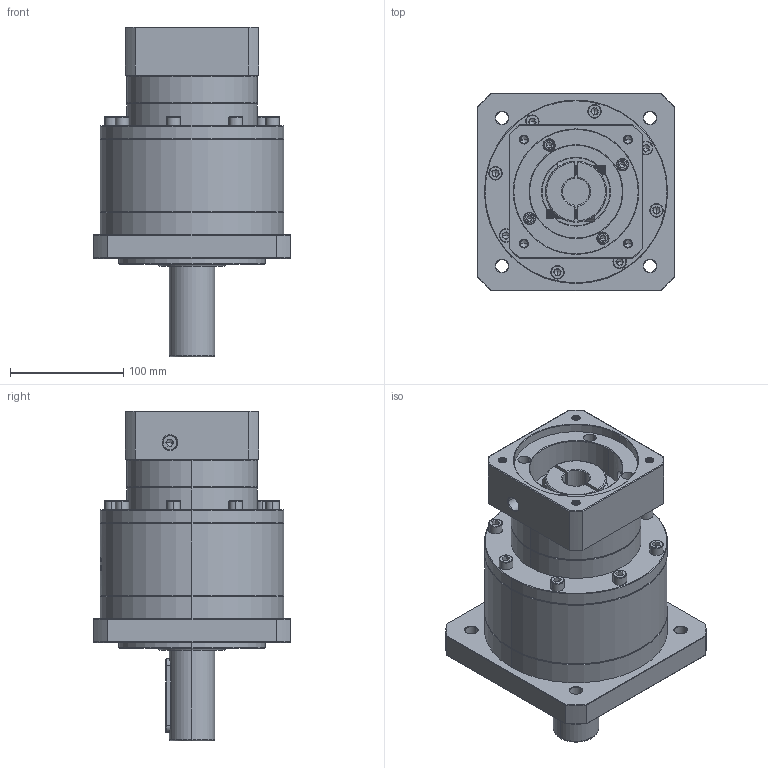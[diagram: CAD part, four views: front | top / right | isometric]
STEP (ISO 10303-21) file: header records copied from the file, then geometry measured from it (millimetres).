
FILE_DESCRIPTION (( 'STEP AP214' ), '1' );
FILE_NAME ('ZF160-D40-L2-24-110-130-M8.step', '2023-03-22T03:56:32', ( '' ), ( '' ), 'SwSTEP 2.0', 'SolidWorks 2016', '' );
FILE_SCHEMA (( 'AUTOMOTIVE_DESIGN' ));
Length unit declared in the file: millimetre
Products named in the file (1): ZF160-D40-L2-24-110-130-M8
Bounding box: 175 x 175 x 291.7 mm (x, y, z)
Volume: 3572276.6 mm3; surface area: 265805.1 mm2
Topology: 6 solids, 6 shells, 1857 faces, 4687 edges, 2956 vertices
Faces by surface type: plane 746, cylinder 484, cone 357, bspline 212, torus 58
Entity records: 99202 total; most frequent: CARTESIAN_POINT 36460, ORIENTED_EDGE 9266, DIRECTION 8140, EDGE_CURVE 4633, VERTEX_POINT 2956, AXIS2_PLACEMENT_3D 2822, LINE 2496, VECTOR 2496
